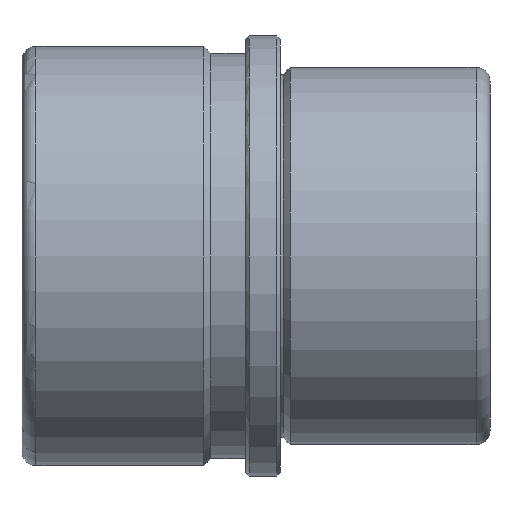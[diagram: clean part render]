
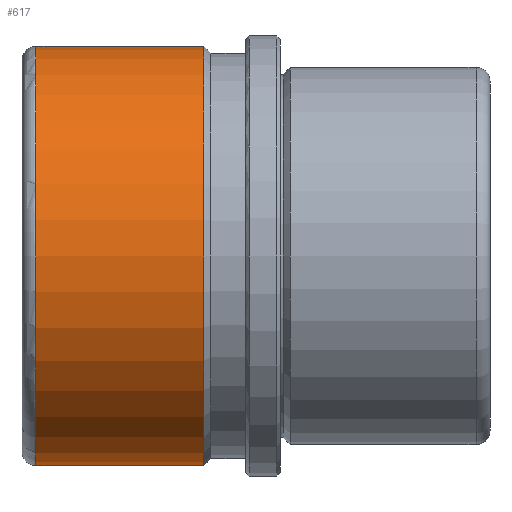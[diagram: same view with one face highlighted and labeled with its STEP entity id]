
A CAD part, front view. The second image highlights one B-rep face of the part: STEP entity #617.
In plain terms, the highlighted cylindrical face has radius 30 mm (diameter 60 mm), a partial arc.
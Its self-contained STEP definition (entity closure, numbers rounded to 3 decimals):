
#402=CARTESIAN_POINT('Line Origine',(30.,0.,30.)) ;
#406=CARTESIAN_POINT('Vertex',(-11.,0.,30.)) ;
#408=CARTESIAN_POINT('Vertex',(-35.,0.,30.)) ;
#422=CARTESIAN_POINT('Vertex',(-11.,0.,-30.)) ;
#425=CARTESIAN_POINT('Line Origine',(30.,0.,-30.)) ;
#429=CARTESIAN_POINT('Vertex',(-35.,0.,-30.)) ;
#580=CARTESIAN_POINT('Axis2P3D Location',(30.,0.,0.)) ;
#585=CARTESIAN_POINT('Axis2P3D Location',(-11.,0.,0.)) ;
#589=CARTESIAN_POINT('Vertex',(-11.,-30.,0.)) ;
#592=CARTESIAN_POINT('Axis2P3D Location',(-11.,0.,0.)) ;
#597=CARTESIAN_POINT('Axis2P3D Location',(-35.,0.,0.)) ;
#601=CARTESIAN_POINT('Vertex',(-35.,-30.,0.)) ;
#604=CARTESIAN_POINT('Axis2P3D Location',(-35.,0.,0.)) ;
#403=DIRECTION('Vector Direction',(-1.,0.,0.)) ;
#426=DIRECTION('Vector Direction',(-1.,0.,0.)) ;
#581=DIRECTION('Axis2P3D Direction',(-1.,-0.,-0.)) ;
#582=DIRECTION('Axis2P3D XDirection',(0.,0.,-1.)) ;
#586=DIRECTION('Axis2P3D Direction',(-1.,-0.,-0.)) ;
#593=DIRECTION('Axis2P3D Direction',(-1.,-0.,-0.)) ;
#598=DIRECTION('Axis2P3D Direction',(-1.,-0.,-0.)) ;
#605=DIRECTION('Axis2P3D Direction',(-1.,-0.,-0.)) ;
#583=AXIS2_PLACEMENT_3D('Cylinder Axis2P3D',#580,#581,#582) ;
#587=AXIS2_PLACEMENT_3D('Circle Axis2P3D',#585,#586,$) ;
#594=AXIS2_PLACEMENT_3D('Circle Axis2P3D',#592,#593,$) ;
#599=AXIS2_PLACEMENT_3D('Circle Axis2P3D',#597,#598,$) ;
#606=AXIS2_PLACEMENT_3D('Circle Axis2P3D',#604,#605,$) ;
#610=ORIENTED_EDGE('',*,*,#431,.T.) ;
#611=ORIENTED_EDGE('',*,*,#591,.F.) ;
#612=ORIENTED_EDGE('',*,*,#596,.F.) ;
#613=ORIENTED_EDGE('',*,*,#410,.T.) ;
#614=ORIENTED_EDGE('',*,*,#603,.T.) ;
#615=ORIENTED_EDGE('',*,*,#608,.T.) ;
#404=VECTOR('Line Direction',#403,1.) ;
#427=VECTOR('Line Direction',#426,1.) ;
#617=ADVANCED_FACE('FAMO-SF1-C42 x 67',(#616),#584,.T.) ;
#588=CIRCLE('generated circle',#587,30.) ;
#595=CIRCLE('generated circle',#594,30.) ;
#600=CIRCLE('generated circle',#599,30.) ;
#607=CIRCLE('generated circle',#606,30.) ;
#584=CYLINDRICAL_SURFACE('generated cylinder',#583,30.) ;
#410=EDGE_CURVE('',#407,#409,#405,.T.) ;
#431=EDGE_CURVE('',#430,#423,#428,.F.) ;
#591=EDGE_CURVE('',#590,#423,#588,.F.) ;
#596=EDGE_CURVE('',#407,#590,#595,.F.) ;
#603=EDGE_CURVE('',#409,#602,#600,.F.) ;
#608=EDGE_CURVE('',#602,#430,#607,.F.) ;
#609=EDGE_LOOP('',(#610,#611,#612,#613,#614,#615)) ;
#616=FACE_OUTER_BOUND('',#609,.T.) ;
#405=LINE('Line',#402,#404) ;
#428=LINE('Line',#425,#427) ;
#407=VERTEX_POINT('',#406) ;
#409=VERTEX_POINT('',#408) ;
#423=VERTEX_POINT('',#422) ;
#430=VERTEX_POINT('',#429) ;
#590=VERTEX_POINT('',#589) ;
#602=VERTEX_POINT('',#601) ;
